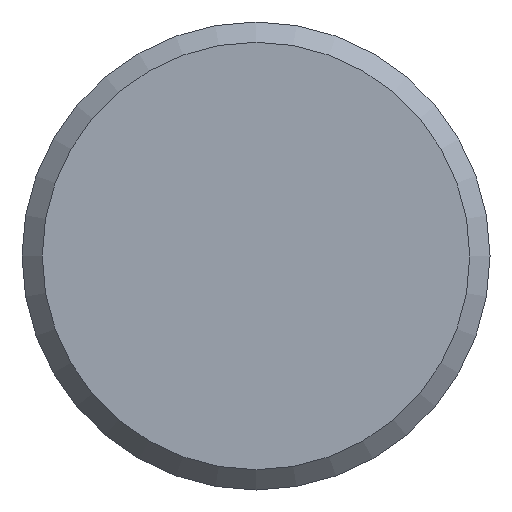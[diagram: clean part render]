
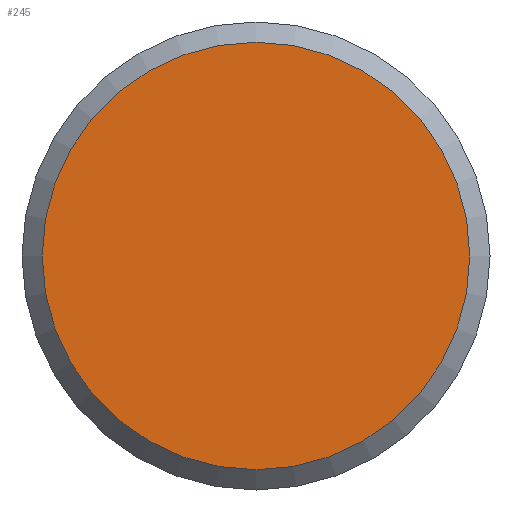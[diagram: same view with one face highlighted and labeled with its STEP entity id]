
A CAD part, front view. The second image highlights one B-rep face of the part: STEP entity #245.
In plain terms, the highlighted planar face has unit normal (0, -1, 0).
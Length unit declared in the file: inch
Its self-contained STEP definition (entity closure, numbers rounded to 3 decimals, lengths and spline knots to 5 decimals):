
#17=CIRCLE('',#271,0.173);
#35=FACE_OUTER_BOUND('',#48,.T.);
#48=EDGE_LOOP('',(#199));
#116=VERTEX_POINT('',#416);
#147=EDGE_CURVE('',#116,#116,#17,.T.);
#199=ORIENTED_EDGE('',*,*,#147,.F.);
#234=PLANE('',#277);
#245=ADVANCED_FACE('',(#35),#234,.T.);
#271=AXIS2_PLACEMENT_3D('',#417,#312,#313);
#277=AXIS2_PLACEMENT_3D('',#429,#326,#327);
#312=DIRECTION('center_axis',(0.,1.,0.));
#313=DIRECTION('ref_axis',(0.,0.,1.));
#326=DIRECTION('center_axis',(0.,-1.,0.));
#327=DIRECTION('ref_axis',(0.,0.,-1.));
#416=CARTESIAN_POINT('',(0.,0.,-0.173));
#417=CARTESIAN_POINT('Origin',(0.,0.,0.));
#429=CARTESIAN_POINT('Origin',(0.,0.,0.));
